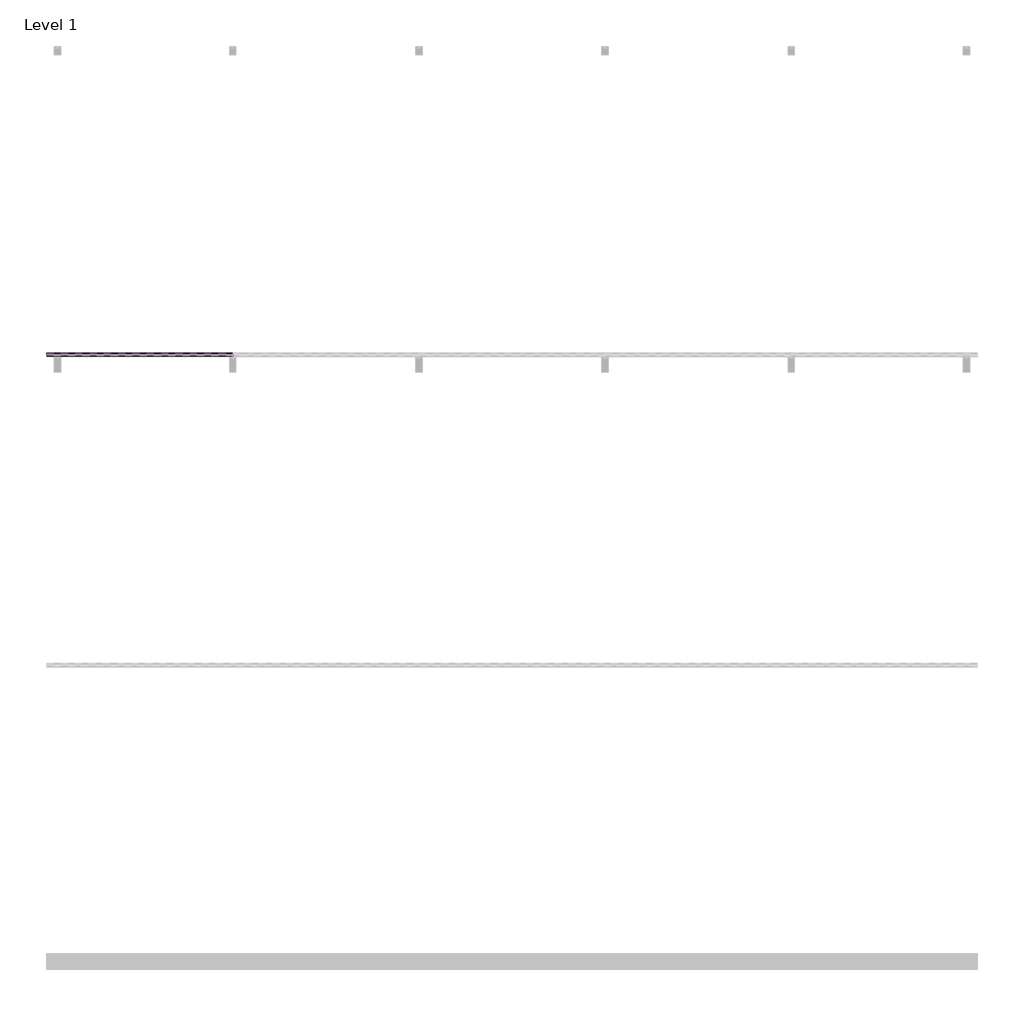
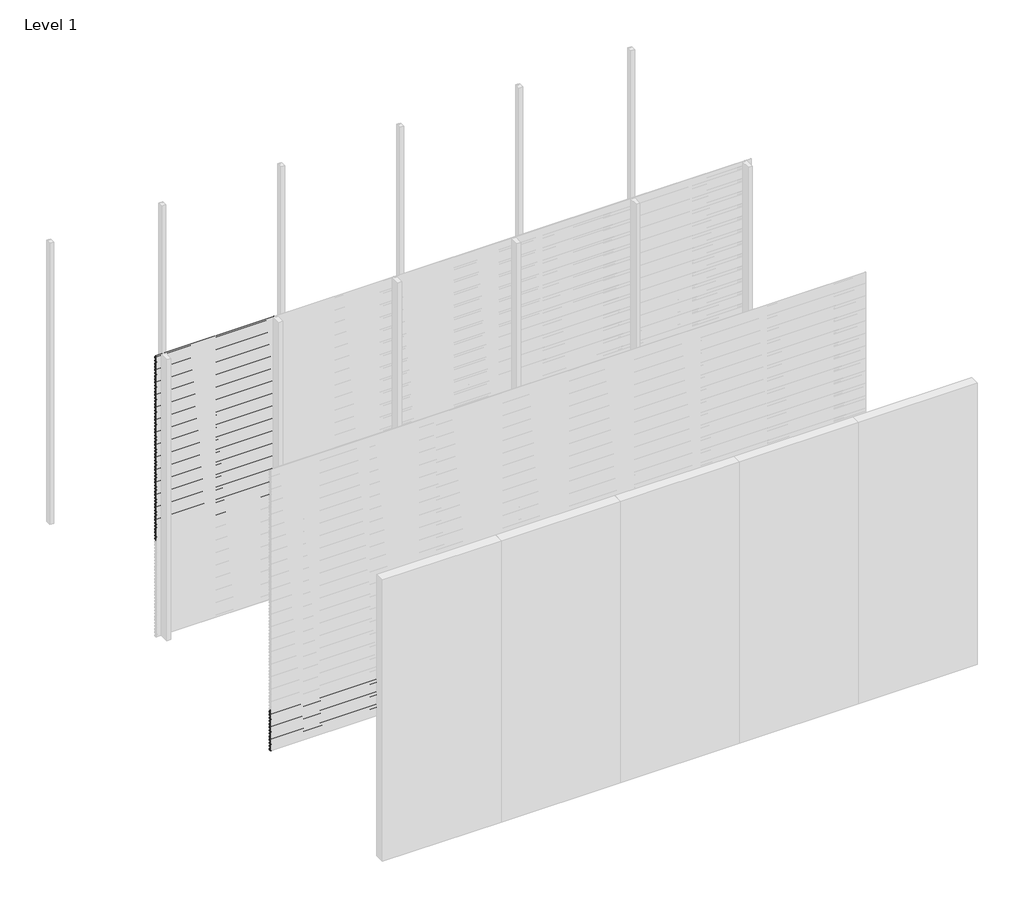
# One storey, part 27 of 77: 72 proxies.
"""IFC4 building model written with IfcOpenShell, lengths in millimetres."""

from ifc_helpers import new_model, si_unit, frame, origin, place, context, project, spatial, polyline, outline, extrude, element, save

model = new_model("IFC4")

# Units and contexts
model_context = context("Model", 3, world=origin())
ifc_project = project(units=[si_unit("LENGTHUNIT", "METRE", prefix="MILLI")], contexts=[model_context])

# Site, building, storey
site = spatial("IfcSite", under=ifc_project)
building = spatial("IfcBuilding", under=site)
storey = spatial("IfcBuildingStorey", under=building, Name="Level 1", Elevation=0.0)

# Proxies
placement = place(None, origin())
element("IfcBuildingElementProxy", 1, Name="Wall Sweeps", at=placement, inside=storey, context=model_context, shape_type="SweptSolid", body=[
    extrude(outline(polyline([(-35978.6, 2972.5359887), (-35998.0, 2983.7366691), (-35998.0, 2997.0), (-35997.0, 2997.0), (-35997.0, 2984.3191057), (-35977.6, 2973.1185105), (-35977.6, 2959.5185105), (-35978.6, 2961.0953129), (-35978.6, 2966.9032062), (-35995.9773817, 2958.8), (-35996.4, 2959.7063078), (-35978.6, 2968.0065841), (-35978.6, 2972.5359887)])), frame((0.0, 0.0, 0.0), z_axis=(1.0, 0.0, 0.0), x_axis=(0.0, 1.0, 0.0)), (0.0, 0.0, 1.0), 1200.0),
])
element("IfcBuildingElementProxy", 2, Name="Wall Sweeps", at=placement, inside=storey, context=model_context, shape_type="SweptSolid", body=[
    extrude(outline(polyline([(-35978.6, 2939.2359887), (-35998.0, 2950.4366691), (-35998.0, 2963.7), (-35997.0, 2963.7), (-35997.0, 2951.0191057), (-35977.6, 2939.8185105), (-35977.6, 2926.2185105), (-35978.6, 2927.7953129), (-35978.6, 2933.6032062), (-35995.9773817, 2925.5), (-35996.4, 2926.4063078), (-35978.6, 2934.7065841), (-35978.6, 2939.2359887)])), frame((0.0, 0.0, 0.0), z_axis=(1.0, 0.0, 0.0), x_axis=(0.0, 1.0, 0.0)), (0.0, 0.0, 1.0), 1200.0),
])
element("IfcBuildingElementProxy", 3, Name="Wall Sweeps", at=placement, inside=storey, context=model_context, shape_type="SweptSolid", body=[
    extrude(outline(polyline([(-35978.6, 2905.9359887), (-35998.0, 2917.1366691), (-35998.0, 2930.4), (-35997.0, 2930.4), (-35997.0, 2917.7191057), (-35977.6, 2906.5185105), (-35977.6, 2892.9185105), (-35978.6, 2894.4953129), (-35978.6, 2900.3032062), (-35995.9773817, 2892.2), (-35996.4, 2893.1063078), (-35978.6, 2901.4065841), (-35978.6, 2905.9359887)])), frame((0.0, 0.0, 0.0), z_axis=(1.0, 0.0, 0.0), x_axis=(0.0, 1.0, 0.0)), (0.0, 0.0, 1.0), 1200.0),
])
element("IfcBuildingElementProxy", 4, Name="Wall Sweeps", at=placement, inside=storey, context=model_context, shape_type="SweptSolid", body=[
    extrude(outline(polyline([(-35978.6, 2872.6359887), (-35998.0, 2883.8366691), (-35998.0, 2897.1), (-35997.0, 2897.1), (-35997.0, 2884.4191057), (-35977.6, 2873.2185105), (-35977.6, 2859.6185105), (-35978.6, 2861.1953129), (-35978.6, 2867.0032062), (-35995.9773817, 2858.9), (-35996.4, 2859.8063078), (-35978.6, 2868.1065841), (-35978.6, 2872.6359887)])), frame((0.0, 0.0, 0.0), z_axis=(1.0, 0.0, 0.0), x_axis=(0.0, 1.0, 0.0)), (0.0, 0.0, 1.0), 1200.0),
])
element("IfcBuildingElementProxy", 5, Name="Wall Sweeps", at=placement, inside=storey, context=model_context, shape_type="SweptSolid", body=[
    extrude(outline(polyline([(-35978.6, 2839.3359887), (-35998.0, 2850.5366691), (-35998.0, 2863.8), (-35997.0, 2863.8), (-35997.0, 2851.1191057), (-35977.6, 2839.9185105), (-35977.6, 2826.3185105), (-35978.6, 2827.8953129), (-35978.6, 2833.7032062), (-35995.9773817, 2825.6), (-35996.4, 2826.5063078), (-35978.6, 2834.8065841), (-35978.6, 2839.3359887)])), frame((0.0, 0.0, 0.0), z_axis=(1.0, 0.0, 0.0), x_axis=(0.0, 1.0, 0.0)), (0.0, 0.0, 1.0), 1200.0),
])
element("IfcBuildingElementProxy", 6, Name="Wall Sweeps", at=placement, inside=storey, context=model_context, shape_type="SweptSolid", body=[
    extrude(outline(polyline([(-35978.6, 2806.0359887), (-35998.0, 2817.2366691), (-35998.0, 2830.5), (-35997.0, 2830.5), (-35997.0, 2817.8191057), (-35977.6, 2806.6185105), (-35977.6, 2793.0185105), (-35978.6, 2794.5953129), (-35978.6, 2800.4032062), (-35995.9773817, 2792.3), (-35996.4, 2793.2063078), (-35978.6, 2801.5065841), (-35978.6, 2806.0359887)])), frame((0.0, 0.0, 0.0), z_axis=(1.0, 0.0, 0.0), x_axis=(0.0, 1.0, 0.0)), (0.0, 0.0, 1.0), 1200.0),
])
element("IfcBuildingElementProxy", 7, Name="Wall Sweeps", at=placement, inside=storey, context=model_context, shape_type="SweptSolid", body=[
    extrude(outline(polyline([(-35978.6, 2772.7359887), (-35998.0, 2783.9366691), (-35998.0, 2797.2), (-35997.0, 2797.2), (-35997.0, 2784.5191057), (-35977.6, 2773.3185105), (-35977.6, 2759.7185105), (-35978.6, 2761.2953129), (-35978.6, 2767.1032062), (-35995.9773817, 2759.0), (-35996.4, 2759.9063078), (-35978.6, 2768.2065841), (-35978.6, 2772.7359887)])), frame((0.0, 0.0, 0.0), z_axis=(1.0, 0.0, 0.0), x_axis=(0.0, 1.0, 0.0)), (0.0, 0.0, 1.0), 1200.0),
])
element("IfcBuildingElementProxy", 8, Name="Wall Sweeps", at=placement, inside=storey, context=model_context, shape_type="SweptSolid", body=[
    extrude(outline(polyline([(-35978.6, 2739.4359887), (-35998.0, 2750.6366691), (-35998.0, 2763.9), (-35997.0, 2763.9), (-35997.0, 2751.2191057), (-35977.6, 2740.0185105), (-35977.6, 2726.4185105), (-35978.6, 2727.9953129), (-35978.6, 2733.8032062), (-35995.9773817, 2725.7), (-35996.4, 2726.6063078), (-35978.6, 2734.9065841), (-35978.6, 2739.4359887)])), frame((0.0, 0.0, 0.0), z_axis=(1.0, 0.0, 0.0), x_axis=(0.0, 1.0, 0.0)), (0.0, 0.0, 1.0), 1200.0),
])
element("IfcBuildingElementProxy", 9, Name="Wall Sweeps", at=placement, inside=storey, context=model_context, shape_type="SweptSolid", body=[
    extrude(outline(polyline([(-35978.6, 2706.1359887), (-35998.0, 2717.3366691), (-35998.0, 2730.6), (-35997.0, 2730.6), (-35997.0, 2717.9191057), (-35977.6, 2706.7185105), (-35977.6, 2693.1185105), (-35978.6, 2694.6953129), (-35978.6, 2700.5032062), (-35995.9773817, 2692.4), (-35996.4, 2693.3063078), (-35978.6, 2701.6065841), (-35978.6, 2706.1359887)])), frame((0.0, 0.0, 0.0), z_axis=(1.0, 0.0, 0.0), x_axis=(0.0, 1.0, 0.0)), (0.0, 0.0, 1.0), 1200.0),
])
element("IfcBuildingElementProxy", 10, Name="Wall Sweeps", at=placement, inside=storey, context=model_context, shape_type="SweptSolid", body=[
    extrude(outline(polyline([(-35978.6, 2672.8359887), (-35998.0, 2684.0366691), (-35998.0, 2697.3), (-35997.0, 2697.3), (-35997.0, 2684.6191057), (-35977.6, 2673.4185105), (-35977.6, 2659.8185105), (-35978.6, 2661.3953129), (-35978.6, 2667.2032062), (-35995.9773817, 2659.1), (-35996.4, 2660.0063078), (-35978.6, 2668.3065841), (-35978.6, 2672.8359887)])), frame((0.0, 0.0, 0.0), z_axis=(1.0, 0.0, 0.0), x_axis=(0.0, 1.0, 0.0)), (0.0, 0.0, 1.0), 1200.0),
])
element("IfcBuildingElementProxy", 11, Name="Wall Sweeps", at=placement, inside=storey, context=model_context, shape_type="SweptSolid", body=[
    extrude(outline(polyline([(-35978.6, 2639.5359887), (-35998.0, 2650.7366691), (-35998.0, 2664.0), (-35997.0, 2664.0), (-35997.0, 2651.3191057), (-35977.6, 2640.1185105), (-35977.6, 2626.5185105), (-35978.6, 2628.0953129), (-35978.6, 2633.9032062), (-35995.9773817, 2625.8), (-35996.4, 2626.7063078), (-35978.6, 2635.0065841), (-35978.6, 2639.5359887)])), frame((0.0, 0.0, 0.0), z_axis=(1.0, 0.0, 0.0), x_axis=(0.0, 1.0, 0.0)), (0.0, 0.0, 1.0), 1200.0),
])
element("IfcBuildingElementProxy", 12, Name="Wall Sweeps", at=placement, inside=storey, context=model_context, shape_type="SweptSolid", body=[
    extrude(outline(polyline([(-35978.6, 2606.2359887), (-35998.0, 2617.4366691), (-35998.0, 2630.7), (-35997.0, 2630.7), (-35997.0, 2618.0191057), (-35977.6, 2606.8185105), (-35977.6, 2593.2185105), (-35978.6, 2594.7953129), (-35978.6, 2600.6032062), (-35995.9773817, 2592.5), (-35996.4, 2593.4063078), (-35978.6, 2601.7065841), (-35978.6, 2606.2359887)])), frame((0.0, 0.0, 0.0), z_axis=(1.0, 0.0, 0.0), x_axis=(0.0, 1.0, 0.0)), (0.0, 0.0, 1.0), 1200.0),
])
element("IfcBuildingElementProxy", 13, Name="Wall Sweeps", at=placement, inside=storey, context=model_context, shape_type="SweptSolid", body=[
    extrude(outline(polyline([(-35978.6, 2572.9359887), (-35998.0, 2584.1366691), (-35998.0, 2597.4), (-35997.0, 2597.4), (-35997.0, 2584.7191057), (-35977.6, 2573.5185105), (-35977.6, 2559.9185105), (-35978.6, 2561.4953129), (-35978.6, 2567.3032062), (-35995.9773817, 2559.2), (-35996.4, 2560.1063078), (-35978.6, 2568.4065841), (-35978.6, 2572.9359887)])), frame((0.0, 0.0, 0.0), z_axis=(1.0, 0.0, 0.0), x_axis=(0.0, 1.0, 0.0)), (0.0, 0.0, 1.0), 1200.0),
])
element("IfcBuildingElementProxy", 14, Name="Wall Sweeps", at=placement, inside=storey, context=model_context, shape_type="SweptSolid", body=[
    extrude(outline(polyline([(-35978.6, 2539.6359887), (-35998.0, 2550.8366691), (-35998.0, 2564.1), (-35997.0, 2564.1), (-35997.0, 2551.4191057), (-35977.6, 2540.2185105), (-35977.6, 2526.6185105), (-35978.6, 2528.1953129), (-35978.6, 2534.0032062), (-35995.9773817, 2525.9), (-35996.4, 2526.8063078), (-35978.6, 2535.1065841), (-35978.6, 2539.6359887)])), frame((0.0, 0.0, 0.0), z_axis=(1.0, 0.0, 0.0), x_axis=(0.0, 1.0, 0.0)), (0.0, 0.0, 1.0), 1200.0),
])
element("IfcBuildingElementProxy", 15, Name="Wall Sweeps", at=placement, inside=storey, context=model_context, shape_type="SweptSolid", body=[
    extrude(outline(polyline([(-35978.6, 2506.3359887), (-35998.0, 2517.5366691), (-35998.0, 2530.8), (-35997.0, 2530.8), (-35997.0, 2518.1191057), (-35977.6, 2506.9185105), (-35977.6, 2493.3185105), (-35978.6, 2494.8953129), (-35978.6, 2500.7032062), (-35995.9773817, 2492.6), (-35996.4, 2493.5063078), (-35978.6, 2501.8065841), (-35978.6, 2506.3359887)])), frame((0.0, 0.0, 0.0), z_axis=(1.0, 0.0, 0.0), x_axis=(0.0, 1.0, 0.0)), (0.0, 0.0, 1.0), 1200.0),
])
element("IfcBuildingElementProxy", 16, Name="Wall Sweeps", at=placement, inside=storey, context=model_context, shape_type="SweptSolid", body=[
    extrude(outline(polyline([(-35978.6, 2473.0359887), (-35998.0, 2484.2366691), (-35998.0, 2497.5), (-35997.0, 2497.5), (-35997.0, 2484.8191057), (-35977.6, 2473.6185105), (-35977.6, 2460.0185105), (-35978.6, 2461.5953129), (-35978.6, 2467.4032062), (-35995.9773817, 2459.3), (-35996.4, 2460.2063078), (-35978.6, 2468.5065841), (-35978.6, 2473.0359887)])), frame((0.0, 0.0, 0.0), z_axis=(1.0, 0.0, 0.0), x_axis=(0.0, 1.0, 0.0)), (0.0, 0.0, 1.0), 1200.0),
])
element("IfcBuildingElementProxy", 17, Name="Wall Sweeps", at=placement, inside=storey, context=model_context, shape_type="SweptSolid", body=[
    extrude(outline(polyline([(-35978.6, 2439.7359887), (-35998.0, 2450.9366691), (-35998.0, 2464.2), (-35997.0, 2464.2), (-35997.0, 2451.5191057), (-35977.6, 2440.3185105), (-35977.6, 2426.7185105), (-35978.6, 2428.2953129), (-35978.6, 2434.1032062), (-35995.9773817, 2426.0), (-35996.4, 2426.9063078), (-35978.6, 2435.2065841), (-35978.6, 2439.7359887)])), frame((0.0, 0.0, 0.0), z_axis=(1.0, 0.0, 0.0), x_axis=(0.0, 1.0, 0.0)), (0.0, 0.0, 1.0), 1200.0),
])
element("IfcBuildingElementProxy", 18, Name="Wall Sweeps", at=placement, inside=storey, context=model_context, shape_type="SweptSolid", body=[
    extrude(outline(polyline([(-35978.6, 2406.4359887), (-35998.0, 2417.6366691), (-35998.0, 2430.9), (-35997.0, 2430.9), (-35997.0, 2418.2191057), (-35977.6, 2407.0185105), (-35977.6, 2393.4185105), (-35978.6, 2394.9953129), (-35978.6, 2400.8032062), (-35995.9773817, 2392.7), (-35996.4, 2393.6063078), (-35978.6, 2401.9065841), (-35978.6, 2406.4359887)])), frame((0.0, 0.0, 0.0), z_axis=(1.0, 0.0, 0.0), x_axis=(0.0, 1.0, 0.0)), (0.0, 0.0, 1.0), 1200.0),
])
element("IfcBuildingElementProxy", 19, Name="Wall Sweeps", at=placement, inside=storey, context=model_context, shape_type="SweptSolid", body=[
    extrude(outline(polyline([(-35978.6, 2373.1359887), (-35998.0, 2384.3366691), (-35998.0, 2397.6), (-35997.0, 2397.6), (-35997.0, 2384.9191057), (-35977.6, 2373.7185105), (-35977.6, 2360.1185105), (-35978.6, 2361.6953129), (-35978.6, 2367.5032062), (-35995.9773817, 2359.4), (-35996.4, 2360.3063078), (-35978.6, 2368.6065841), (-35978.6, 2373.1359887)])), frame((0.0, 0.0, 0.0), z_axis=(1.0, 0.0, 0.0), x_axis=(0.0, 1.0, 0.0)), (0.0, 0.0, 1.0), 1200.0),
])
element("IfcBuildingElementProxy", 20, Name="Wall Sweeps", at=placement, inside=storey, context=model_context, shape_type="SweptSolid", body=[
    extrude(outline(polyline([(-35978.6, 2339.8359887), (-35998.0, 2351.0366691), (-35998.0, 2364.3), (-35997.0, 2364.3), (-35997.0, 2351.6191057), (-35977.6, 2340.4185105), (-35977.6, 2326.8185105), (-35978.6, 2328.3953129), (-35978.6, 2334.2032062), (-35995.9773817, 2326.1), (-35996.4, 2327.0063078), (-35978.6, 2335.3065841), (-35978.6, 2339.8359887)])), frame((0.0, 0.0, 0.0), z_axis=(1.0, 0.0, 0.0), x_axis=(0.0, 1.0, 0.0)), (0.0, 0.0, 1.0), 1200.0),
])
element("IfcBuildingElementProxy", 21, Name="Wall Sweeps", at=placement, inside=storey, context=model_context, shape_type="SweptSolid", body=[
    extrude(outline(polyline([(-35978.6, 2306.5359887), (-35998.0, 2317.7366691), (-35998.0, 2331.0), (-35997.0, 2331.0), (-35997.0, 2318.3191057), (-35977.6, 2307.1185105), (-35977.6, 2293.5185105), (-35978.6, 2295.0953129), (-35978.6, 2300.9032062), (-35995.9773817, 2292.8), (-35996.4, 2293.7063078), (-35978.6, 2302.0065841), (-35978.6, 2306.5359887)])), frame((0.0, 0.0, 0.0), z_axis=(1.0, 0.0, 0.0), x_axis=(0.0, 1.0, 0.0)), (0.0, 0.0, 1.0), 1200.0),
])
element("IfcBuildingElementProxy", 22, Name="Wall Sweeps", at=placement, inside=storey, context=model_context, shape_type="SweptSolid", body=[
    extrude(outline(polyline([(-35978.6, 2273.2359887), (-35998.0, 2284.4366691), (-35998.0, 2297.7), (-35997.0, 2297.7), (-35997.0, 2285.0191057), (-35977.6, 2273.8185105), (-35977.6, 2260.2185105), (-35978.6, 2261.7953129), (-35978.6, 2267.6032062), (-35995.9773817, 2259.5), (-35996.4, 2260.4063078), (-35978.6, 2268.7065841), (-35978.6, 2273.2359887)])), frame((0.0, 0.0, 0.0), z_axis=(1.0, 0.0, 0.0), x_axis=(0.0, 1.0, 0.0)), (0.0, 0.0, 1.0), 1200.0),
])
element("IfcBuildingElementProxy", 23, Name="Wall Sweeps", at=placement, inside=storey, context=model_context, shape_type="SweptSolid", body=[
    extrude(outline(polyline([(-35978.6, 2239.9359887), (-35998.0, 2251.1366691), (-35998.0, 2264.4), (-35997.0, 2264.4), (-35997.0, 2251.7191057), (-35977.6, 2240.5185105), (-35977.6, 2226.9185105), (-35978.6, 2228.4953129), (-35978.6, 2234.3032062), (-35995.9773817, 2226.2), (-35996.4, 2227.1063078), (-35978.6, 2235.4065841), (-35978.6, 2239.9359887)])), frame((0.0, 0.0, 0.0), z_axis=(1.0, 0.0, 0.0), x_axis=(0.0, 1.0, 0.0)), (0.0, 0.0, 1.0), 1200.0),
])
element("IfcBuildingElementProxy", 24, Name="Wall Sweeps", at=placement, inside=storey, context=model_context, shape_type="SweptSolid", body=[
    extrude(outline(polyline([(-35978.6, 2206.6359887), (-35998.0, 2217.8366691), (-35998.0, 2231.1), (-35997.0, 2231.1), (-35997.0, 2218.4191057), (-35977.6, 2207.2185105), (-35977.6, 2193.6185105), (-35978.6, 2195.1953129), (-35978.6, 2201.0032062), (-35995.9773817, 2192.9), (-35996.4, 2193.8063078), (-35978.6, 2202.1065841), (-35978.6, 2206.6359887)])), frame((0.0, 0.0, 0.0), z_axis=(1.0, 0.0, 0.0), x_axis=(0.0, 1.0, 0.0)), (0.0, 0.0, 1.0), 1200.0),
])
element("IfcBuildingElementProxy", 25, Name="Wall Sweeps", at=placement, inside=storey, context=model_context, shape_type="SweptSolid", body=[
    extrude(outline(polyline([(-35978.6, 2173.3359887), (-35998.0, 2184.5366691), (-35998.0, 2197.8), (-35997.0, 2197.8), (-35997.0, 2185.1191057), (-35977.6, 2173.9185105), (-35977.6, 2160.3185105), (-35978.6, 2161.8953129), (-35978.6, 2167.7032062), (-35995.9773817, 2159.6), (-35996.4, 2160.5063078), (-35978.6, 2168.8065841), (-35978.6, 2173.3359887)])), frame((0.0, 0.0, 0.0), z_axis=(1.0, 0.0, 0.0), x_axis=(0.0, 1.0, 0.0)), (0.0, 0.0, 1.0), 1200.0),
])
element("IfcBuildingElementProxy", 26, Name="Wall Sweeps", at=placement, inside=storey, context=model_context, shape_type="SweptSolid", body=[
    extrude(outline(polyline([(-35978.6, 2140.0359887), (-35998.0, 2151.2366691), (-35998.0, 2164.5), (-35997.0, 2164.5), (-35997.0, 2151.8191057), (-35977.6, 2140.6185105), (-35977.6, 2127.0185105), (-35978.6, 2128.5953129), (-35978.6, 2134.4032062), (-35995.9773817, 2126.3), (-35996.4, 2127.2063078), (-35978.6, 2135.5065841), (-35978.6, 2140.0359887)])), frame((0.0, 0.0, 0.0), z_axis=(1.0, 0.0, 0.0), x_axis=(0.0, 1.0, 0.0)), (0.0, 0.0, 1.0), 1200.0),
])
element("IfcBuildingElementProxy", 27, Name="Wall Sweeps", at=placement, inside=storey, context=model_context, shape_type="SweptSolid", body=[
    extrude(outline(polyline([(-35978.6, 2106.7359887), (-35998.0, 2117.9366691), (-35998.0, 2131.2), (-35997.0, 2131.2), (-35997.0, 2118.5191057), (-35977.6, 2107.3185105), (-35977.6, 2093.7185105), (-35978.6, 2095.2953129), (-35978.6, 2101.1032062), (-35995.9773817, 2093.0), (-35996.4, 2093.9063078), (-35978.6, 2102.2065841), (-35978.6, 2106.7359887)])), frame((0.0, 0.0, 0.0), z_axis=(1.0, 0.0, 0.0), x_axis=(0.0, 1.0, 0.0)), (0.0, 0.0, 1.0), 1200.0),
])
element("IfcBuildingElementProxy", 28, Name="Wall Sweeps", at=placement, inside=storey, context=model_context, shape_type="SweptSolid", body=[
    extrude(outline(polyline([(-35978.6, 2073.4359887), (-35998.0, 2084.6366691), (-35998.0, 2097.9), (-35997.0, 2097.9), (-35997.0, 2085.2191057), (-35977.6, 2074.0185105), (-35977.6, 2060.4185105), (-35978.6, 2061.9953129), (-35978.6, 2067.8032062), (-35995.9773817, 2059.7), (-35996.4, 2060.6063078), (-35978.6, 2068.9065841), (-35978.6, 2073.4359887)])), frame((0.0, 0.0, 0.0), z_axis=(1.0, 0.0, 0.0), x_axis=(0.0, 1.0, 0.0)), (0.0, 0.0, 1.0), 1200.0),
])
element("IfcBuildingElementProxy", 29, Name="Wall Sweeps", at=placement, inside=storey, context=model_context, shape_type="SweptSolid", body=[
    extrude(outline(polyline([(-35978.6, 2040.1359887), (-35998.0, 2051.3366691), (-35998.0, 2064.6), (-35997.0, 2064.6), (-35997.0, 2051.9191057), (-35977.6, 2040.7185105), (-35977.6, 2027.1185105), (-35978.6, 2028.6953129), (-35978.6, 2034.5032062), (-35995.9773817, 2026.4), (-35996.4, 2027.3063078), (-35978.6, 2035.6065841), (-35978.6, 2040.1359887)])), frame((0.0, 0.0, 0.0), z_axis=(1.0, 0.0, 0.0), x_axis=(0.0, 1.0, 0.0)), (0.0, 0.0, 1.0), 1200.0),
])
element("IfcBuildingElementProxy", 30, Name="Wall Sweeps", at=placement, inside=storey, context=model_context, shape_type="SweptSolid", body=[
    extrude(outline(polyline([(-35978.6, 2006.8359887), (-35998.0, 2018.0366691), (-35998.0, 2031.3), (-35997.0, 2031.3), (-35997.0, 2018.6191057), (-35977.6, 2007.4185105), (-35977.6, 1993.8185105), (-35978.6, 1995.3953129), (-35978.6, 2001.2032062), (-35995.9773817, 1993.1), (-35996.4, 1994.0063078), (-35978.6, 2002.3065841), (-35978.6, 2006.8359887)])), frame((0.0, 0.0, 0.0), z_axis=(1.0, 0.0, 0.0), x_axis=(0.0, 1.0, 0.0)), (0.0, 0.0, 1.0), 1200.0),
])
element("IfcBuildingElementProxy", 31, Name="Wall Sweeps", at=placement, inside=storey, context=model_context, shape_type="SweptSolid", body=[
    extrude(outline(polyline([(-35978.6, 1973.5359887), (-35998.0, 1984.7366691), (-35998.0, 1998.0), (-35997.0, 1998.0), (-35997.0, 1985.3191057), (-35977.6, 1974.1185105), (-35977.6, 1960.5185105), (-35978.6, 1962.0953129), (-35978.6, 1967.9032062), (-35995.9773817, 1959.8), (-35996.4, 1960.7063078), (-35978.6, 1969.0065841), (-35978.6, 1973.5359887)])), frame((0.0, 0.0, 0.0), z_axis=(1.0, 0.0, 0.0), x_axis=(0.0, 1.0, 0.0)), (0.0, 0.0, 1.0), 1200.0),
])
element("IfcBuildingElementProxy", 32, Name="Wall Sweeps", at=placement, inside=storey, context=model_context, shape_type="SweptSolid", body=[
    extrude(outline(polyline([(-35978.6, 1940.2359887), (-35998.0, 1951.4366691), (-35998.0, 1964.7), (-35997.0, 1964.7), (-35997.0, 1952.0191057), (-35977.6, 1940.8185105), (-35977.6, 1927.2185105), (-35978.6, 1928.7953129), (-35978.6, 1934.6032062), (-35995.9773817, 1926.5), (-35996.4, 1927.4063078), (-35978.6, 1935.7065841), (-35978.6, 1940.2359887)])), frame((0.0, 0.0, 0.0), z_axis=(1.0, 0.0, 0.0), x_axis=(0.0, 1.0, 0.0)), (0.0, 0.0, 1.0), 1200.0),
])
element("IfcBuildingElementProxy", 33, Name="Wall Sweeps", at=placement, inside=storey, context=model_context, shape_type="SweptSolid", body=[
    extrude(outline(polyline([(-35978.6, 1906.9359887), (-35998.0, 1918.1366691), (-35998.0, 1931.4), (-35997.0, 1931.4), (-35997.0, 1918.7191057), (-35977.6, 1907.5185105), (-35977.6, 1893.9185105), (-35978.6, 1895.4953129), (-35978.6, 1901.3032062), (-35995.9773817, 1893.2), (-35996.4, 1894.1063078), (-35978.6, 1902.4065841), (-35978.6, 1906.9359887)])), frame((0.0, 0.0, 0.0), z_axis=(1.0, 0.0, 0.0), x_axis=(0.0, 1.0, 0.0)), (0.0, 0.0, 1.0), 1200.0),
])
element("IfcBuildingElementProxy", 34, Name="Wall Sweeps", at=placement, inside=storey, context=model_context, shape_type="SweptSolid", body=[
    extrude(outline(polyline([(-35978.6, 1873.6359887), (-35998.0, 1884.8366691), (-35998.0, 1898.1), (-35997.0, 1898.1), (-35997.0, 1885.4191057), (-35977.6, 1874.2185105), (-35977.6, 1860.6185105), (-35978.6, 1862.1953129), (-35978.6, 1868.0032062), (-35995.9773817, 1859.9), (-35996.4, 1860.8063078), (-35978.6, 1869.1065841), (-35978.6, 1873.6359887)])), frame((0.0, 0.0, 0.0), z_axis=(1.0, 0.0, 0.0), x_axis=(0.0, 1.0, 0.0)), (0.0, 0.0, 1.0), 1200.0),
])
element("IfcBuildingElementProxy", 35, Name="Wall Sweeps", at=placement, inside=storey, context=model_context, shape_type="SweptSolid", body=[
    extrude(outline(polyline([(-35978.6, 1840.3359887), (-35998.0, 1851.5366691), (-35998.0, 1864.8), (-35997.0, 1864.8), (-35997.0, 1852.1191057), (-35977.6, 1840.9185105), (-35977.6, 1827.3185105), (-35978.6, 1828.8953129), (-35978.6, 1834.7032062), (-35995.9773817, 1826.6), (-35996.4, 1827.5063078), (-35978.6, 1835.8065841), (-35978.6, 1840.3359887)])), frame((0.0, 0.0, 0.0), z_axis=(1.0, 0.0, 0.0), x_axis=(0.0, 1.0, 0.0)), (0.0, 0.0, 1.0), 1200.0),
])
element("IfcBuildingElementProxy", 36, Name="Wall Sweeps", at=placement, inside=storey, context=model_context, shape_type="SweptSolid", body=[
    extrude(outline(polyline([(-35978.6, 1807.0359887), (-35998.0, 1818.2366691), (-35998.0, 1831.5), (-35997.0, 1831.5), (-35997.0, 1818.8191057), (-35977.6, 1807.6185105), (-35977.6, 1794.0185105), (-35978.6, 1795.5953129), (-35978.6, 1801.4032062), (-35995.9773817, 1793.3), (-35996.4, 1794.2063078), (-35978.6, 1802.5065841), (-35978.6, 1807.0359887)])), frame((0.0, 0.0, 0.0), z_axis=(1.0, 0.0, 0.0), x_axis=(0.0, 1.0, 0.0)), (0.0, 0.0, 1.0), 1200.0),
])
element("IfcBuildingElementProxy", 37, Name="Wall Sweeps", at=placement, inside=storey, context=model_context, shape_type="SweptSolid", body=[
    extrude(outline(polyline([(-35978.6, 1773.7359887), (-35998.0, 1784.9366691), (-35998.0, 1798.2), (-35997.0, 1798.2), (-35997.0, 1785.5191057), (-35977.6, 1774.3185105), (-35977.6, 1760.7185105), (-35978.6, 1762.2953129), (-35978.6, 1768.1032062), (-35995.9773817, 1760.0), (-35996.4, 1760.9063078), (-35978.6, 1769.2065841), (-35978.6, 1773.7359887)])), frame((0.0, 0.0, 0.0), z_axis=(1.0, 0.0, 0.0), x_axis=(0.0, 1.0, 0.0)), (0.0, 0.0, 1.0), 1200.0),
])
element("IfcBuildingElementProxy", 38, Name="Wall Sweeps", at=placement, inside=storey, context=model_context, shape_type="SweptSolid", body=[
    extrude(outline(polyline([(-35978.6, 1740.4359887), (-35998.0, 1751.6366691), (-35998.0, 1764.9), (-35997.0, 1764.9), (-35997.0, 1752.2191057), (-35977.6, 1741.0185105), (-35977.6, 1727.4185105), (-35978.6, 1728.9953129), (-35978.6, 1734.8032062), (-35995.9773817, 1726.7), (-35996.4, 1727.6063078), (-35978.6, 1735.9065841), (-35978.6, 1740.4359887)])), frame((0.0, 0.0, 0.0), z_axis=(1.0, 0.0, 0.0), x_axis=(0.0, 1.0, 0.0)), (0.0, 0.0, 1.0), 1200.0),
])
element("IfcBuildingElementProxy", 39, Name="Wall Sweeps", at=placement, inside=storey, context=model_context, shape_type="SweptSolid", body=[
    extrude(outline(polyline([(-35978.6, 1707.1359887), (-35998.0, 1718.3366691), (-35998.0, 1731.6), (-35997.0, 1731.6), (-35997.0, 1718.9191057), (-35977.6, 1707.7185105), (-35977.6, 1694.1185105), (-35978.6, 1695.6953129), (-35978.6, 1701.5032062), (-35995.9773817, 1693.4), (-35996.4, 1694.3063078), (-35978.6, 1702.6065841), (-35978.6, 1707.1359887)])), frame((0.0, 0.0, 0.0), z_axis=(1.0, 0.0, 0.0), x_axis=(0.0, 1.0, 0.0)), (0.0, 0.0, 1.0), 1200.0),
])
element("IfcBuildingElementProxy", 40, Name="Wall Sweeps", at=placement, inside=storey, context=model_context, shape_type="SweptSolid", body=[
    extrude(outline(polyline([(-35978.6, 1673.8359887), (-35998.0, 1685.0366691), (-35998.0, 1698.3), (-35997.0, 1698.3), (-35997.0, 1685.6191057), (-35977.6, 1674.4185105), (-35977.6, 1660.8185105), (-35978.6, 1662.3953129), (-35978.6, 1668.2032062), (-35995.9773817, 1660.1), (-35996.4, 1661.0063078), (-35978.6, 1669.3065841), (-35978.6, 1673.8359887)])), frame((0.0, 0.0, 0.0), z_axis=(1.0, 0.0, 0.0), x_axis=(0.0, 1.0, 0.0)), (0.0, 0.0, 1.0), 1200.0),
])
element("IfcBuildingElementProxy", 41, Name="Wall Sweeps", at=placement, inside=storey, context=model_context, shape_type="SweptSolid", body=[
    extrude(outline(polyline([(-35978.6, 1640.5359887), (-35998.0, 1651.7366691), (-35998.0, 1665.0), (-35997.0, 1665.0), (-35997.0, 1652.3191057), (-35977.6, 1641.1185105), (-35977.6, 1627.5185105), (-35978.6, 1629.0953129), (-35978.6, 1634.9032062), (-35995.9773817, 1626.8), (-35996.4, 1627.7063078), (-35978.6, 1636.0065841), (-35978.6, 1640.5359887)])), frame((0.0, 0.0, 0.0), z_axis=(1.0, 0.0, 0.0), x_axis=(0.0, 1.0, 0.0)), (0.0, 0.0, 1.0), 1200.0),
])
element("IfcBuildingElementProxy", 42, Name="Wall Sweeps", at=placement, inside=storey, context=model_context, shape_type="SweptSolid", body=[
    extrude(outline(polyline([(-35978.6, 1607.2359887), (-35998.0, 1618.4366691), (-35998.0, 1631.7), (-35997.0, 1631.7), (-35997.0, 1619.0191057), (-35977.6, 1607.8185105), (-35977.6, 1594.2185105), (-35978.6, 1595.7953129), (-35978.6, 1601.6032062), (-35995.9773817, 1593.5), (-35996.4, 1594.4063078), (-35978.6, 1602.7065841), (-35978.6, 1607.2359887)])), frame((0.0, 0.0, 0.0), z_axis=(1.0, 0.0, 0.0), x_axis=(0.0, 1.0, 0.0)), (0.0, 0.0, 1.0), 1200.0),
])
element("IfcBuildingElementProxy", 43, Name="Wall Sweeps", at=placement, inside=storey, context=model_context, shape_type="SweptSolid", body=[
    extrude(outline(polyline([(-35978.6, 1573.9359887), (-35998.0, 1585.1366691), (-35998.0, 1598.4), (-35997.0, 1598.4), (-35997.0, 1585.7191057), (-35977.6, 1574.5185105), (-35977.6, 1560.9185105), (-35978.6, 1562.4953129), (-35978.6, 1568.3032062), (-35995.9773817, 1560.2), (-35996.4, 1561.1063078), (-35978.6, 1569.4065841), (-35978.6, 1573.9359887)])), frame((0.0, 0.0, 0.0), z_axis=(1.0, 0.0, 0.0), x_axis=(0.0, 1.0, 0.0)), (0.0, 0.0, 1.0), 1200.0),
])
element("IfcBuildingElementProxy", 44, Name="Wall Sweeps", at=placement, inside=storey, context=model_context, shape_type="SweptSolid", body=[
    extrude(outline(polyline([(-35978.6, 1540.6359887), (-35998.0, 1551.8366691), (-35998.0, 1565.1), (-35997.0, 1565.1), (-35997.0, 1552.4191057), (-35977.6, 1541.2185105), (-35977.6, 1527.6185105), (-35978.6, 1529.1953129), (-35978.6, 1535.0032062), (-35995.9773817, 1526.9), (-35996.4, 1527.8063078), (-35978.6, 1536.1065841), (-35978.6, 1540.6359887)])), frame((0.0, 0.0, 0.0), z_axis=(1.0, 0.0, 0.0), x_axis=(0.0, 1.0, 0.0)), (0.0, 0.0, 1.0), 1200.0),
])
element("IfcBuildingElementProxy", 45, Name="Wall Sweeps", at=placement, inside=storey, context=model_context, shape_type="SweptSolid", body=[
    extrude(outline(polyline([(-35978.6, 1507.3359887), (-35998.0, 1518.5366691), (-35998.0, 1531.8), (-35997.0, 1531.8), (-35997.0, 1519.1191057), (-35977.6, 1507.9185105), (-35977.6, 1494.3185105), (-35978.6, 1495.8953129), (-35978.6, 1501.7032062), (-35995.9773817, 1493.6), (-35996.4, 1494.5063078), (-35978.6, 1502.8065841), (-35978.6, 1507.3359887)])), frame((0.0, 0.0, 0.0), z_axis=(1.0, 0.0, 0.0), x_axis=(0.0, 1.0, 0.0)), (0.0, 0.0, 1.0), 1200.0),
])
element("IfcBuildingElementProxy", 46, Name="Wall Sweeps", at=placement, inside=storey, context=model_context, shape_type="SweptSolid", body=[
    extrude(outline(polyline([(-35978.6, 1474.0359887), (-35998.0, 1485.2366691), (-35998.0, 1498.5), (-35997.0, 1498.5), (-35997.0, 1485.8191057), (-35977.6, 1474.6185105), (-35977.6, 1461.0185105), (-35978.6, 1462.5953129), (-35978.6, 1468.4032062), (-35995.9773817, 1460.3), (-35996.4, 1461.2063078), (-35978.6, 1469.5065841), (-35978.6, 1474.0359887)])), frame((0.0, 0.0, 0.0), z_axis=(1.0, 0.0, 0.0), x_axis=(0.0, 1.0, 0.0)), (0.0, 0.0, 1.0), 1200.0),
])
element("IfcBuildingElementProxy", 47, Name="Wall Sweeps", at=placement, inside=storey, context=model_context, shape_type="SweptSolid", body=[
    extrude(outline(polyline([(-35978.6, 1440.7359887), (-35998.0, 1451.9366691), (-35998.0, 1465.2), (-35997.0, 1465.2), (-35997.0, 1452.5191057), (-35977.6, 1441.3185105), (-35977.6, 1427.7185105), (-35978.6, 1429.2953129), (-35978.6, 1435.1032062), (-35995.9773817, 1427.0), (-35996.4, 1427.9063078), (-35978.6, 1436.2065841), (-35978.6, 1440.7359887)])), frame((0.0, 0.0, 0.0), z_axis=(1.0, 0.0, 0.0), x_axis=(0.0, 1.0, 0.0)), (0.0, 0.0, 1.0), 1200.0),
])
element("IfcBuildingElementProxy", 48, Name="Wall Sweeps", at=placement, inside=storey, context=model_context, shape_type="SweptSolid", body=[
    extrude(outline(polyline([(-35978.6, 1407.4359887), (-35998.0, 1418.6366691), (-35998.0, 1431.9), (-35997.0, 1431.9), (-35997.0, 1419.2191057), (-35977.6, 1408.0185105), (-35977.6, 1394.4185105), (-35978.6, 1395.9953129), (-35978.6, 1401.8032062), (-35995.9773817, 1393.7), (-35996.4, 1394.6063078), (-35978.6, 1402.9065841), (-35978.6, 1407.4359887)])), frame((0.0, 0.0, 0.0), z_axis=(1.0, 0.0, 0.0), x_axis=(0.0, 1.0, 0.0)), (0.0, 0.0, 1.0), 1200.0),
])
element("IfcBuildingElementProxy", 49, Name="Wall Sweeps", at=placement, inside=storey, context=model_context, shape_type="SweptSolid", body=[
    extrude(outline(polyline([(-35978.6, 1374.1359887), (-35998.0, 1385.3366691), (-35998.0, 1398.6), (-35997.0, 1398.6), (-35997.0, 1385.9191057), (-35977.6, 1374.7185105), (-35977.6, 1361.1185105), (-35978.6, 1362.6953129), (-35978.6, 1368.5032062), (-35995.9773817, 1360.4), (-35996.4, 1361.3063078), (-35978.6, 1369.6065841), (-35978.6, 1374.1359887)])), frame((0.0, 0.0, 0.0), z_axis=(1.0, 0.0, 0.0), x_axis=(0.0, 1.0, 0.0)), (0.0, 0.0, 1.0), 1200.0),
])
element("IfcBuildingElementProxy", 50, Name="Wall Sweeps", at=placement, inside=storey, context=model_context, shape_type="SweptSolid", body=[
    extrude(outline(polyline([(-35978.6, 1340.8359887), (-35998.0, 1352.0366691), (-35998.0, 1365.3), (-35997.0, 1365.3), (-35997.0, 1352.6191057), (-35977.6, 1341.4185105), (-35977.6, 1327.8185105), (-35978.6, 1329.3953129), (-35978.6, 1335.2032062), (-35995.9773817, 1327.1), (-35996.4, 1328.0063078), (-35978.6, 1336.3065841), (-35978.6, 1340.8359887)])), frame((0.0, 0.0, 0.0), z_axis=(1.0, 0.0, 0.0), x_axis=(0.0, 1.0, 0.0)), (0.0, 0.0, 1.0), 1200.0),
])
element("IfcBuildingElementProxy", 51, Name="Wall Sweeps", at=placement, inside=storey, context=model_context, shape_type="SweptSolid", body=[
    extrude(outline(polyline([(-35978.6, 1307.5359887), (-35998.0, 1318.7366691), (-35998.0, 1332.0), (-35997.0, 1332.0), (-35997.0, 1319.3191057), (-35977.6, 1308.1185105), (-35977.6, 1294.5185105), (-35978.6, 1296.0953129), (-35978.6, 1301.9032062), (-35995.9773817, 1293.8), (-35996.4, 1294.7063078), (-35978.6, 1303.0065841), (-35978.6, 1307.5359887)])), frame((0.0, 0.0, 0.0), z_axis=(1.0, 0.0, 0.0), x_axis=(0.0, 1.0, 0.0)), (0.0, 0.0, 1.0), 1200.0),
])
element("IfcBuildingElementProxy", 52, Name="Wall Sweeps", at=placement, inside=storey, context=model_context, shape_type="SweptSolid", body=[
    extrude(outline(polyline([(-35978.6, 1274.2359887), (-35998.0, 1285.4366691), (-35998.0, 1298.7), (-35997.0, 1298.7), (-35997.0, 1286.0191057), (-35977.6, 1274.8185105), (-35977.6, 1261.2185105), (-35978.6, 1262.7953129), (-35978.6, 1268.6032062), (-35995.9773817, 1260.5), (-35996.4, 1261.4063078), (-35978.6, 1269.7065841), (-35978.6, 1274.2359887)])), frame((0.0, 0.0, 0.0), z_axis=(1.0, 0.0, 0.0), x_axis=(0.0, 1.0, 0.0)), (0.0, 0.0, 1.0), 1200.0),
])
element("IfcBuildingElementProxy", 53, Name="Wall Sweeps", at=placement, inside=storey, context=model_context, shape_type="SweptSolid", body=[
    extrude(outline(polyline([(-35978.6, 1240.9359887), (-35998.0, 1252.1366691), (-35998.0, 1265.4), (-35997.0, 1265.4), (-35997.0, 1252.7191057), (-35977.6, 1241.5185105), (-35977.6, 1227.9185105), (-35978.6, 1229.4953129), (-35978.6, 1235.3032062), (-35995.9773817, 1227.2), (-35996.4, 1228.1063078), (-35978.6, 1236.4065841), (-35978.6, 1240.9359887)])), frame((0.0, 0.0, 0.0), z_axis=(1.0, 0.0, 0.0), x_axis=(0.0, 1.0, 0.0)), (0.0, 0.0, 1.0), 1200.0),
])
element("IfcBuildingElementProxy", 54, Name="Wall Sweeps", at=placement, inside=storey, context=model_context, shape_type="SweptSolid", body=[
    extrude(outline(polyline([(-35978.6, 1207.6359887), (-35998.0, 1218.8366691), (-35998.0, 1232.1), (-35997.0, 1232.1), (-35997.0, 1219.4191057), (-35977.6, 1208.2185105), (-35977.6, 1194.6185105), (-35978.6, 1196.1953129), (-35978.6, 1202.0032062), (-35995.9773817, 1193.9), (-35996.4, 1194.8063078), (-35978.6, 1203.1065841), (-35978.6, 1207.6359887)])), frame((0.0, 0.0, 0.0), z_axis=(1.0, 0.0, 0.0), x_axis=(0.0, 1.0, 0.0)), (0.0, 0.0, 1.0), 1200.0),
])
element("IfcBuildingElementProxy", 55, Name="Wall Sweeps", at=placement, inside=storey, context=model_context, shape_type="SweptSolid", body=[
    extrude(outline(polyline([(-35978.6, 1174.3359887), (-35998.0, 1185.5366691), (-35998.0, 1198.8), (-35997.0, 1198.8), (-35997.0, 1186.1191057), (-35977.6, 1174.9185105), (-35977.6, 1161.3185105), (-35978.6, 1162.8953129), (-35978.6, 1168.7032062), (-35995.9773817, 1160.6), (-35996.4, 1161.5063078), (-35978.6, 1169.8065841), (-35978.6, 1174.3359887)])), frame((0.0, 0.0, 0.0), z_axis=(1.0, 0.0, 0.0), x_axis=(0.0, 1.0, 0.0)), (0.0, 0.0, 1.0), 1200.0),
])
element("IfcBuildingElementProxy", 56, Name="Wall Sweeps", at=placement, inside=storey, context=model_context, shape_type="SweptSolid", body=[
    extrude(outline(polyline([(-35978.6, 1141.0359887), (-35998.0, 1152.2366691), (-35998.0, 1165.5), (-35997.0, 1165.5), (-35997.0, 1152.8191057), (-35977.6, 1141.6185105), (-35977.6, 1128.0185105), (-35978.6, 1129.5953129), (-35978.6, 1135.4032062), (-35995.9773817, 1127.3), (-35996.4, 1128.2063078), (-35978.6, 1136.5065841), (-35978.6, 1141.0359887)])), frame((0.0, 0.0, 0.0), z_axis=(1.0, 0.0, 0.0), x_axis=(0.0, 1.0, 0.0)), (0.0, 0.0, 1.0), 1200.0),
])
element("IfcBuildingElementProxy", 57, Name="Wall Sweeps", at=placement, inside=storey, context=model_context, shape_type="SweptSolid", body=[
    extrude(outline(polyline([(-35978.6, 1107.7359887), (-35998.0, 1118.9366691), (-35998.0, 1132.2), (-35997.0, 1132.2), (-35997.0, 1119.5191057), (-35977.6, 1108.3185105), (-35977.6, 1094.7185105), (-35978.6, 1096.2953129), (-35978.6, 1102.1032062), (-35995.9773817, 1094.0), (-35996.4, 1094.9063078), (-35978.6, 1103.2065841), (-35978.6, 1107.7359887)])), frame((0.0, 0.0, 0.0), z_axis=(1.0, 0.0, 0.0), x_axis=(0.0, 1.0, 0.0)), (0.0, 0.0, 1.0), 1200.0),
])
element("IfcBuildingElementProxy", 58, Name="Wall Sweeps", at=placement, inside=storey, context=model_context, shape_type="SweptSolid", body=[
    extrude(outline(polyline([(-35978.6, 1074.4359887), (-35998.0, 1085.6366691), (-35998.0, 1098.9), (-35997.0, 1098.9), (-35997.0, 1086.2191057), (-35977.6, 1075.0185105), (-35977.6, 1061.4185105), (-35978.6, 1062.9953129), (-35978.6, 1068.8032062), (-35995.9773817, 1060.7), (-35996.4, 1061.6063078), (-35978.6, 1069.9065841), (-35978.6, 1074.4359887)])), frame((0.0, 0.0, 0.0), z_axis=(1.0, 0.0, 0.0), x_axis=(0.0, 1.0, 0.0)), (0.0, 0.0, 1.0), 1200.0),
])
element("IfcBuildingElementProxy", 59, Name="Wall Sweeps", at=placement, inside=storey, context=model_context, shape_type="SweptSolid", body=[
    extrude(outline(polyline([(-35978.6, 1041.1359887), (-35998.0, 1052.3366691), (-35998.0, 1065.6), (-35997.0, 1065.6), (-35997.0, 1052.9191057), (-35977.6, 1041.7185105), (-35977.6, 1028.1185105), (-35978.6, 1029.6953129), (-35978.6, 1035.5032062), (-35995.9773817, 1027.4), (-35996.4, 1028.3063078), (-35978.6, 1036.6065841), (-35978.6, 1041.1359887)])), frame((0.0, 0.0, 0.0), z_axis=(1.0, 0.0, 0.0), x_axis=(0.0, 1.0, 0.0)), (0.0, 0.0, 1.0), 1200.0),
])
element("IfcBuildingElementProxy", 60, Name="Wall Sweeps", at=placement, inside=storey, context=model_context, shape_type="SweptSolid", body=[
    extrude(outline(polyline([(-37978.6, 408.4359887), (-37998.0, 419.6366691), (-37998.0, 432.9), (-37997.0, 432.9), (-37997.0, 420.2191057), (-37977.6, 409.0185105), (-37977.6, 395.4185105), (-37978.6, 396.9953129), (-37978.6, 402.8032062), (-37995.9773817, 394.7), (-37996.4, 395.6063078), (-37978.6, 403.9065841), (-37978.6, 408.4359887)])), frame((0.0, 0.0, 0.0), z_axis=(1.0, 0.0, 0.0), x_axis=(0.0, 1.0, 0.0)), (0.0, 0.0, 1.0), 6000.0),
])
element("IfcBuildingElementProxy", 61, Name="Wall Sweeps", at=placement, inside=storey, context=model_context, shape_type="SweptSolid", body=[
    extrude(outline(polyline([(-37978.6, 375.1359887), (-37998.0, 386.3366691), (-37998.0, 399.6), (-37997.0, 399.6), (-37997.0, 386.9191057), (-37977.6, 375.7185105), (-37977.6, 362.1185105), (-37978.6, 363.6953129), (-37978.6, 369.5032062), (-37995.9773817, 361.4), (-37996.4, 362.3063078), (-37978.6, 370.6065841), (-37978.6, 375.1359887)])), frame((0.0, 0.0, 0.0), z_axis=(1.0, 0.0, 0.0), x_axis=(0.0, 1.0, 0.0)), (0.0, 0.0, 1.0), 6000.0),
])
element("IfcBuildingElementProxy", 62, Name="Wall Sweeps", at=placement, inside=storey, context=model_context, shape_type="SweptSolid", body=[
    extrude(outline(polyline([(-37978.6, 341.8359887), (-37998.0, 353.0366691), (-37998.0, 366.3), (-37997.0, 366.3), (-37997.0, 353.6191057), (-37977.6, 342.4185105), (-37977.6, 328.8185105), (-37978.6, 330.3953129), (-37978.6, 336.2032062), (-37995.9773817, 328.1), (-37996.4, 329.0063078), (-37978.6, 337.3065841), (-37978.6, 341.8359887)])), frame((0.0, 0.0, 0.0), z_axis=(1.0, 0.0, 0.0), x_axis=(0.0, 1.0, 0.0)), (0.0, 0.0, 1.0), 6000.0),
])
element("IfcBuildingElementProxy", 63, Name="Wall Sweeps", at=placement, inside=storey, context=model_context, shape_type="SweptSolid", body=[
    extrude(outline(polyline([(-37978.6, 308.5359887), (-37998.0, 319.7366691), (-37998.0, 333.0), (-37997.0, 333.0), (-37997.0, 320.3191057), (-37977.6, 309.1185105), (-37977.6, 295.5185105), (-37978.6, 297.0953129), (-37978.6, 302.9032062), (-37995.9773817, 294.8), (-37996.4, 295.7063078), (-37978.6, 304.0065841), (-37978.6, 308.5359887)])), frame((0.0, 0.0, 0.0), z_axis=(1.0, 0.0, 0.0), x_axis=(0.0, 1.0, 0.0)), (0.0, 0.0, 1.0), 6000.0),
])
element("IfcBuildingElementProxy", 64, Name="Wall Sweeps", at=placement, inside=storey, context=model_context, shape_type="SweptSolid", body=[
    extrude(outline(polyline([(-37978.6, 275.2359887), (-37998.0, 286.4366691), (-37998.0, 299.7), (-37997.0, 299.7), (-37997.0, 287.0191057), (-37977.6, 275.8185105), (-37977.6, 262.2185105), (-37978.6, 263.7953129), (-37978.6, 269.6032062), (-37995.9773817, 261.5), (-37996.4, 262.4063078), (-37978.6, 270.7065841), (-37978.6, 275.2359887)])), frame((0.0, 0.0, 0.0), z_axis=(1.0, 0.0, 0.0), x_axis=(0.0, 1.0, 0.0)), (0.0, 0.0, 1.0), 6000.0),
])
element("IfcBuildingElementProxy", 65, Name="Wall Sweeps", at=placement, inside=storey, context=model_context, shape_type="SweptSolid", body=[
    extrude(outline(polyline([(-37978.6, 241.9359887), (-37998.0, 253.1366691), (-37998.0, 266.4), (-37997.0, 266.4), (-37997.0, 253.7191057), (-37977.6, 242.5185105), (-37977.6, 228.9185105), (-37978.6, 230.4953129), (-37978.6, 236.3032062), (-37995.9773817, 228.2), (-37996.4, 229.1063078), (-37978.6, 237.4065841), (-37978.6, 241.9359887)])), frame((0.0, 0.0, 0.0), z_axis=(1.0, 0.0, 0.0), x_axis=(0.0, 1.0, 0.0)), (0.0, 0.0, 1.0), 6000.0),
])
element("IfcBuildingElementProxy", 66, Name="Wall Sweeps", at=placement, inside=storey, context=model_context, shape_type="SweptSolid", body=[
    extrude(outline(polyline([(-37978.6, 208.6359887), (-37998.0, 219.8366691), (-37998.0, 233.1), (-37997.0, 233.1), (-37997.0, 220.4191057), (-37977.6, 209.2185105), (-37977.6, 195.6185105), (-37978.6, 197.1953129), (-37978.6, 203.0032062), (-37995.9773817, 194.9), (-37996.4, 195.8063078), (-37978.6, 204.1065841), (-37978.6, 208.6359887)])), frame((0.0, 0.0, 0.0), z_axis=(1.0, 0.0, 0.0), x_axis=(0.0, 1.0, 0.0)), (0.0, 0.0, 1.0), 6000.0),
])
element("IfcBuildingElementProxy", 67, Name="Wall Sweeps", at=placement, inside=storey, context=model_context, shape_type="SweptSolid", body=[
    extrude(outline(polyline([(-37978.6, 175.3359887), (-37998.0, 186.5366691), (-37998.0, 199.8), (-37997.0, 199.8), (-37997.0, 187.1191057), (-37977.6, 175.9185105), (-37977.6, 162.3185105), (-37978.6, 163.8953129), (-37978.6, 169.7032062), (-37995.9773817, 161.6), (-37996.4, 162.5063078), (-37978.6, 170.8065841), (-37978.6, 175.3359887)])), frame((0.0, 0.0, 0.0), z_axis=(1.0, 0.0, 0.0), x_axis=(0.0, 1.0, 0.0)), (0.0, 0.0, 1.0), 6000.0),
])
element("IfcBuildingElementProxy", 68, Name="Wall Sweeps", at=placement, inside=storey, context=model_context, shape_type="SweptSolid", body=[
    extrude(outline(polyline([(-37978.6, 142.0359887), (-37998.0, 153.2366691), (-37998.0, 166.5), (-37997.0, 166.5), (-37997.0, 153.8191057), (-37977.6, 142.6185105), (-37977.6, 129.0185105), (-37978.6, 130.5953129), (-37978.6, 136.4032062), (-37995.9773817, 128.3), (-37996.4, 129.2063078), (-37978.6, 137.5065841), (-37978.6, 142.0359887)])), frame((0.0, 0.0, 0.0), z_axis=(1.0, 0.0, 0.0), x_axis=(0.0, 1.0, 0.0)), (0.0, 0.0, 1.0), 6000.0),
])
element("IfcBuildingElementProxy", 69, Name="Wall Sweeps", at=placement, inside=storey, context=model_context, shape_type="SweptSolid", body=[
    extrude(outline(polyline([(-37978.6, 108.7359887), (-37998.0, 119.9366691), (-37998.0, 133.2), (-37997.0, 133.2), (-37997.0, 120.5191057), (-37977.6, 109.3185105), (-37977.6, 95.7185105), (-37978.6, 97.2953129), (-37978.6, 103.1032062), (-37995.9773817, 95.0), (-37996.4, 95.9063078), (-37978.6, 104.2065841), (-37978.6, 108.7359887)])), frame((0.0, 0.0, 0.0), z_axis=(1.0, 0.0, 0.0), x_axis=(0.0, 1.0, 0.0)), (0.0, 0.0, 1.0), 6000.0),
])
element("IfcBuildingElementProxy", 70, Name="Wall Sweeps", at=placement, inside=storey, context=model_context, shape_type="SweptSolid", body=[
    extrude(outline(polyline([(-37978.6, 75.4359887), (-37998.0, 86.6366691), (-37998.0, 99.9), (-37997.0, 99.9), (-37997.0, 87.2191057), (-37977.6, 76.0185105), (-37977.6, 62.4185105), (-37978.6, 63.9953129), (-37978.6, 69.8032062), (-37995.9773817, 61.7), (-37996.4, 62.6063078), (-37978.6, 70.9065841), (-37978.6, 75.4359887)])), frame((0.0, 0.0, 0.0), z_axis=(1.0, 0.0, 0.0), x_axis=(0.0, 1.0, 0.0)), (0.0, 0.0, 1.0), 6000.0),
])
element("IfcBuildingElementProxy", 71, Name="Wall Sweeps", at=placement, inside=storey, context=model_context, shape_type="SweptSolid", body=[
    extrude(outline(polyline([(-37978.6, 42.1359887), (-37998.0, 53.3366691), (-37998.0, 66.6), (-37997.0, 66.6), (-37997.0, 53.9191057), (-37977.6, 42.7185105), (-37977.6, 29.1185105), (-37978.6, 30.6953129), (-37978.6, 36.5032062), (-37995.9773817, 28.4), (-37996.4, 29.3063078), (-37978.6, 37.6065841), (-37978.6, 42.1359887)])), frame((0.0, 0.0, 0.0), z_axis=(1.0, 0.0, 0.0), x_axis=(0.0, 1.0, 0.0)), (0.0, 0.0, 1.0), 6000.0),
])
element("IfcBuildingElementProxy", 72, Name="Wall Sweeps", at=placement, inside=storey, context=model_context, shape_type="SweptSolid", body=[
    extrude(outline(polyline([(-37978.6, 8.8359887), (-37998.0, 20.0366691), (-37998.0, 33.3), (-37997.0, 33.3), (-37997.0, 20.6191057), (-37977.6, 9.4185105), (-37977.6, -4.1814895), (-37978.6, -2.6046871), (-37978.6, 3.2032062), (-37995.9773817, -4.9), (-37996.4, -3.9936922), (-37978.6, 4.3065841), (-37978.6, 8.8359887)])), frame((0.0, 0.0, 0.0), z_axis=(1.0, 0.0, 0.0), x_axis=(0.0, 1.0, 0.0)), (0.0, 0.0, 1.0), 6000.0),
])

save(model, "model.ifc")
